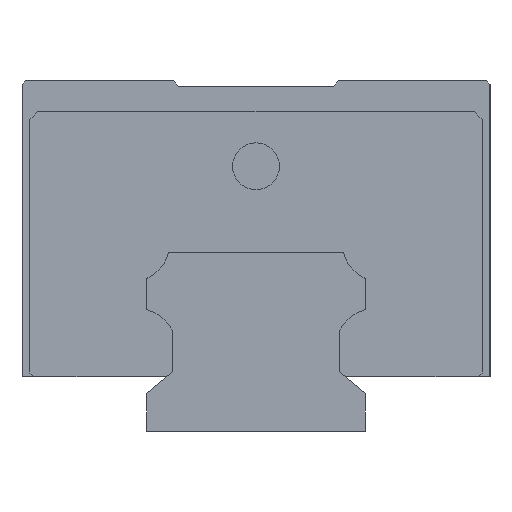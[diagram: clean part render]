
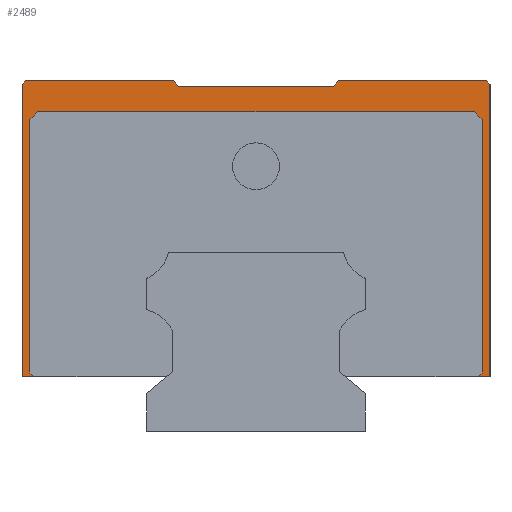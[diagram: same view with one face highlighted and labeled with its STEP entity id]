
A CAD part, left-side view. The second image highlights one B-rep face of the part: STEP entity #2489.
In plain terms, the highlighted planar face has unit normal (-1, 0, 0).
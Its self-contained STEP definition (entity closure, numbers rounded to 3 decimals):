
#18 = VECTOR ( 'NONE', #3869, 1000. ) ;
#42 = DIRECTION ( 'NONE',  ( 0., -0.707, -0.707 ) ) ;
#58 = LINE ( 'NONE', #1370, #1547 ) ;
#98 = EDGE_CURVE ( 'NONE', #3511, #2660, #5395, .T. ) ;
#210 = LINE ( 'NONE', #5178, #1899 ) ;
#223 = CARTESIAN_POINT ( 'NONE',  ( -52.5, -30., 7. ) ) ;
#234 = LINE ( 'NONE', #645, #2130 ) ;
#256 = DIRECTION ( 'NONE',  ( 0., -1., 0. ) ) ;
#277 = EDGE_CURVE ( 'NONE', #4611, #1743, #5339, .T. ) ;
#487 = LINE ( 'NONE', #2334, #1607 ) ;
#538 = LINE ( 'NONE', #4535, #1147 ) ;
#583 = EDGE_CURVE ( 'NONE', #4611, #4103, #3526, .T. ) ;
#621 = VECTOR ( 'NONE', #3119, 1000. ) ;
#645 = CARTESIAN_POINT ( 'NONE',  ( -52.5, 30., 45. ) ) ;
#789 = VERTEX_POINT ( 'NONE', #3615 ) ;
#820 = ORIENTED_EDGE ( 'NONE', *, *, #4257, .F. ) ;
#906 = VECTOR ( 'NONE', #5727, 1000. ) ;
#950 = VECTOR ( 'NONE', #3108, 1000. ) ;
#966 = VERTEX_POINT ( 'NONE', #4166 ) ;
#1107 = LINE ( 'NONE', #4225, #4679 ) ;
#1147 = VECTOR ( 'NONE', #42, 1000. ) ;
#1169 = EDGE_CURVE ( 'NONE', #966, #4072, #2722, .T. ) ;
#1200 = CARTESIAN_POINT ( 'NONE',  ( -52.5, 30., 7. ) ) ;
#1211 = CARTESIAN_POINT ( 'NONE',  ( -52.5, -29., 7.5 ) ) ;
#1294 = LINE ( 'NONE', #1211, #2897 ) ;
#1314 = ORIENTED_EDGE ( 'NONE', *, *, #3683, .T. ) ;
#1317 = CARTESIAN_POINT ( 'NONE',  ( -52.5, 29.5, 45. ) ) ;
#1328 = EDGE_CURVE ( 'NONE', #4125, #4103, #234, .T. ) ;
#1370 = CARTESIAN_POINT ( 'NONE',  ( -52.5, 10., 44.25 ) ) ;
#1389 = VERTEX_POINT ( 'NONE', #2857 ) ;
#1395 = DIRECTION ( 'NONE',  ( 0., 1., 0. ) ) ;
#1442 = ORIENTED_EDGE ( 'NONE', *, *, #3327, .T. ) ;
#1494 = VECTOR ( 'NONE', #3446, 1000. ) ;
#1513 = ORIENTED_EDGE ( 'NONE', *, *, #1328, .F. ) ;
#1514 = ORIENTED_EDGE ( 'NONE', *, *, #4565, .F. ) ;
#1527 = VERTEX_POINT ( 'NONE', #3951 ) ;
#1547 = VECTOR ( 'NONE', #4578, 1000. ) ;
#1607 = VECTOR ( 'NONE', #5009, 1000. ) ;
#1743 = VERTEX_POINT ( 'NONE', #223 ) ;
#1754 = CARTESIAN_POINT ( 'NONE',  ( -52.5, 29., 7.5 ) ) ;
#1883 = ORIENTED_EDGE ( 'NONE', *, *, #3401, .T. ) ;
#1899 = VECTOR ( 'NONE', #5555, 1000. ) ;
#1943 = VERTEX_POINT ( 'NONE', #5281 ) ;
#1955 = DIRECTION ( 'NONE',  ( 0., -1., 0. ) ) ;
#2030 = CARTESIAN_POINT ( 'NONE',  ( -52.5, 29., 40. ) ) ;
#2045 = AXIS2_PLACEMENT_3D ( 'NONE', #4026, #4978, #5032 ) ;
#2060 = CARTESIAN_POINT ( 'NONE',  ( -52.5, -29.5, 45. ) ) ;
#2080 = CARTESIAN_POINT ( 'NONE',  ( -52.5, 28.5, 7. ) ) ;
#2130 = VECTOR ( 'NONE', #1955, 1000. ) ;
#2269 = DIRECTION ( 'NONE',  ( 0., -1., 0. ) ) ;
#2308 = VERTEX_POINT ( 'NONE', #1200 ) ;
#2317 = VECTOR ( 'NONE', #5804, 1000. ) ;
#2334 = CARTESIAN_POINT ( 'NONE',  ( -52.5, -10., 44.25 ) ) ;
#2342 = ORIENTED_EDGE ( 'NONE', *, *, #5181, .T. ) ;
#2365 = ORIENTED_EDGE ( 'NONE', *, *, #3855, .T. ) ;
#2367 = EDGE_CURVE ( 'NONE', #4575, #789, #3551, .T. ) ;
#2444 = CARTESIAN_POINT ( 'NONE',  ( -52.5, 29., 40. ) ) ;
#2452 = LINE ( 'NONE', #2867, #4059 ) ;
#2489 = ADVANCED_FACE ( 'NONE', ( #5469 ), #4948, .F. ) ;
#2500 = VECTOR ( 'NONE', #256, 1000. ) ;
#2656 = ORIENTED_EDGE ( 'NONE', *, *, #4145, .F. ) ;
#2660 = VERTEX_POINT ( 'NONE', #2803 ) ;
#2708 = LINE ( 'NONE', #4911, #4658 ) ;
#2722 = LINE ( 'NONE', #1754, #2317 ) ;
#2803 = CARTESIAN_POINT ( 'NONE',  ( -52.5, -29., 7.5 ) ) ;
#2857 = CARTESIAN_POINT ( 'NONE',  ( -52.5, -10., 44.25 ) ) ;
#2867 = CARTESIAN_POINT ( 'NONE',  ( -52.5, -10.629, 45. ) ) ;
#2897 = VECTOR ( 'NONE', #4386, 1000. ) ;
#2904 = EDGE_CURVE ( 'NONE', #3806, #1527, #58, .T. ) ;
#2969 = ORIENTED_EDGE ( 'NONE', *, *, #2904, .T. ) ;
#3108 = DIRECTION ( 'NONE',  ( 0., 0.707, -0.707 ) ) ;
#3119 = DIRECTION ( 'NONE',  ( 0., 0., -1. ) ) ;
#3190 = CARTESIAN_POINT ( 'NONE',  ( -52.5, 29.5, 45. ) ) ;
#3229 = CARTESIAN_POINT ( 'NONE',  ( -52.5, -29., 40. ) ) ;
#3306 = LINE ( 'NONE', #2444, #18 ) ;
#3327 = EDGE_CURVE ( 'NONE', #4349, #3975, #2708, .T. ) ;
#3385 = LINE ( 'NONE', #4273, #2500 ) ;
#3401 = EDGE_CURVE ( 'NONE', #4125, #1389, #2452, .T. ) ;
#3413 = ORIENTED_EDGE ( 'NONE', *, *, #5385, .T. ) ;
#3446 = DIRECTION ( 'NONE',  ( 0., 1., 0. ) ) ;
#3474 = VERTEX_POINT ( 'NONE', #2080 ) ;
#3511 = VERTEX_POINT ( 'NONE', #4574 ) ;
#3526 = LINE ( 'NONE', #5751, #4681 ) ;
#3551 = LINE ( 'NONE', #1317, #950 ) ;
#3603 = CARTESIAN_POINT ( 'NONE',  ( -52.5, -30., 7. ) ) ;
#3615 = CARTESIAN_POINT ( 'NONE',  ( -52.5, 30., 44.5 ) ) ;
#3683 = EDGE_CURVE ( 'NONE', #1389, #3806, #487, .T. ) ;
#3725 = CARTESIAN_POINT ( 'NONE',  ( -52.5, 10., 44.25 ) ) ;
#3746 = ORIENTED_EDGE ( 'NONE', *, *, #98, .T. ) ;
#3786 = EDGE_CURVE ( 'NONE', #3975, #3511, #538, .T. ) ;
#3796 = ORIENTED_EDGE ( 'NONE', *, *, #4815, .F. ) ;
#3806 = VERTEX_POINT ( 'NONE', #3725 ) ;
#3855 = EDGE_CURVE ( 'NONE', #3474, #966, #210, .T. ) ;
#3869 = DIRECTION ( 'NONE',  ( 0., -0.707, 0.707 ) ) ;
#3928 = CARTESIAN_POINT ( 'NONE',  ( -52.5, -28., 41. ) ) ;
#3951 = CARTESIAN_POINT ( 'NONE',  ( -52.5, 10.629, 45. ) ) ;
#3952 = LINE ( 'NONE', #4908, #1494 ) ;
#3969 = DIRECTION ( 'NONE',  ( 0., 0.707, 0.707 ) ) ;
#3975 = VERTEX_POINT ( 'NONE', #3928 ) ;
#4026 = CARTESIAN_POINT ( 'NONE',  ( -52.5, -30., 45. ) ) ;
#4059 = VECTOR ( 'NONE', #5185, 1000. ) ;
#4072 = VERTEX_POINT ( 'NONE', #2030 ) ;
#4103 = VERTEX_POINT ( 'NONE', #2060 ) ;
#4125 = VERTEX_POINT ( 'NONE', #5600 ) ;
#4145 = EDGE_CURVE ( 'NONE', #4575, #1527, #3385, .T. ) ;
#4166 = CARTESIAN_POINT ( 'NONE',  ( -52.5, 29., 7.5 ) ) ;
#4225 = CARTESIAN_POINT ( 'NONE',  ( -52.5, 30., 7. ) ) ;
#4252 = DIRECTION ( 'NONE',  ( 0., 0., 1. ) ) ;
#4257 = EDGE_CURVE ( 'NONE', #2308, #789, #1107, .T. ) ;
#4273 = CARTESIAN_POINT ( 'NONE',  ( -52.5, 30., 45. ) ) ;
#4349 = VERTEX_POINT ( 'NONE', #4432 ) ;
#4386 = DIRECTION ( 'NONE',  ( 0., 0.707, -0.707 ) ) ;
#4421 = ORIENTED_EDGE ( 'NONE', *, *, #1169, .T. ) ;
#4432 = CARTESIAN_POINT ( 'NONE',  ( -52.5, 28., 41. ) ) ;
#4505 = VECTOR ( 'NONE', #1395, 1000. ) ;
#4535 = CARTESIAN_POINT ( 'NONE',  ( -52.5, -28., 41. ) ) ;
#4565 = EDGE_CURVE ( 'NONE', #1743, #1943, #5432, .T. ) ;
#4574 = CARTESIAN_POINT ( 'NONE',  ( -52.5, -29., 40. ) ) ;
#4575 = VERTEX_POINT ( 'NONE', #3190 ) ;
#4578 = DIRECTION ( 'NONE',  ( 0., 0.643, 0.766 ) ) ;
#4611 = VERTEX_POINT ( 'NONE', #5601 ) ;
#4658 = VECTOR ( 'NONE', #2269, 1000. ) ;
#4679 = VECTOR ( 'NONE', #4252, 1000. ) ;
#4681 = VECTOR ( 'NONE', #3969, 1000. ) ;
#4815 = EDGE_CURVE ( 'NONE', #3474, #2308, #3952, .T. ) ;
#4869 = CARTESIAN_POINT ( 'NONE',  ( -52.5, -30., 45. ) ) ;
#4908 = CARTESIAN_POINT ( 'NONE',  ( -52.5, 11.769, 7. ) ) ;
#4911 = CARTESIAN_POINT ( 'NONE',  ( -52.5, 28., 41. ) ) ;
#4948 = PLANE ( 'NONE',  #2045 ) ;
#4978 = DIRECTION ( 'NONE',  ( 1., 0., 0. ) ) ;
#5009 = DIRECTION ( 'NONE',  ( 0., 1., 0. ) ) ;
#5032 = DIRECTION ( 'NONE',  ( 0., 1., 0. ) ) ;
#5178 = CARTESIAN_POINT ( 'NONE',  ( -52.5, 28.5, 7. ) ) ;
#5181 = EDGE_CURVE ( 'NONE', #2660, #1943, #1294, .T. ) ;
#5185 = DIRECTION ( 'NONE',  ( 0., 0.643, -0.766 ) ) ;
#5281 = CARTESIAN_POINT ( 'NONE',  ( -52.5, -28.5, 7. ) ) ;
#5339 = LINE ( 'NONE', #4869, #906 ) ;
#5385 = EDGE_CURVE ( 'NONE', #4072, #4349, #3306, .T. ) ;
#5395 = LINE ( 'NONE', #3229, #621 ) ;
#5403 = ORIENTED_EDGE ( 'NONE', *, *, #2367, .T. ) ;
#5432 = LINE ( 'NONE', #3603, #4505 ) ;
#5458 = ORIENTED_EDGE ( 'NONE', *, *, #3786, .T. ) ;
#5469 = FACE_OUTER_BOUND ( 'NONE', #5627, .T. ) ;
#5555 = DIRECTION ( 'NONE',  ( 0., 0.707, 0.707 ) ) ;
#5600 = CARTESIAN_POINT ( 'NONE',  ( -52.5, -10.629, 45. ) ) ;
#5601 = CARTESIAN_POINT ( 'NONE',  ( -52.5, -30., 44.5 ) ) ;
#5627 = EDGE_LOOP ( 'NONE', ( #3796, #2365, #4421, #3413, #1442, #5458, #3746, #2342, #1514, #5748, #5808, #1513, #1883, #1314, #2969, #2656, #5403, #820 ) ) ;
#5727 = DIRECTION ( 'NONE',  ( 0., 0., -1. ) ) ;
#5748 = ORIENTED_EDGE ( 'NONE', *, *, #277, .F. ) ;
#5751 = CARTESIAN_POINT ( 'NONE',  ( -52.5, -30., 44.5 ) ) ;
#5804 = DIRECTION ( 'NONE',  ( 0., 0., 1. ) ) ;
#5808 = ORIENTED_EDGE ( 'NONE', *, *, #583, .T. ) ;
